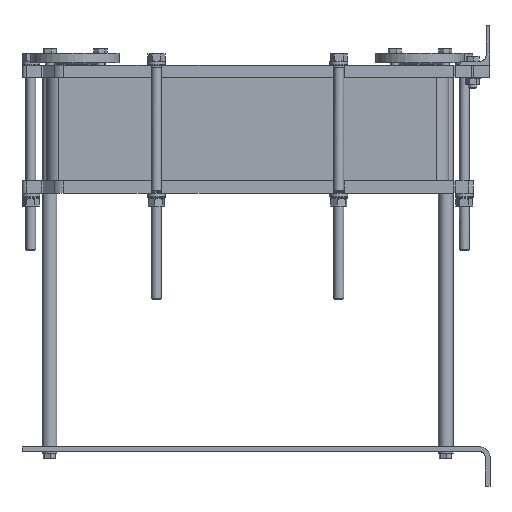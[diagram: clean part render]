
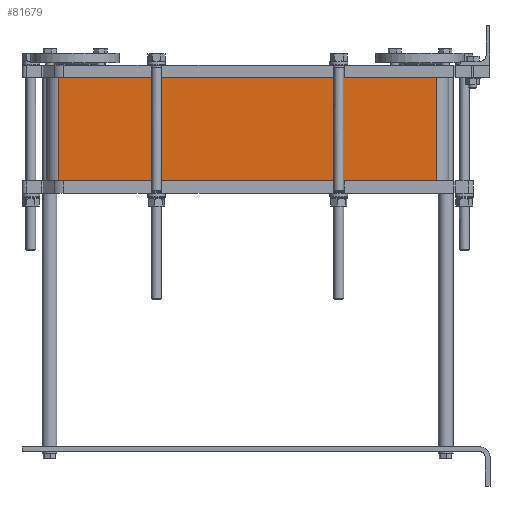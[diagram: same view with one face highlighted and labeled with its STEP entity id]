
A CAD part, left-side view. The second image highlights one B-rep face of the part: STEP entity #81679.
In plain terms, the highlighted planar face has unit normal (-1, 0, 0).
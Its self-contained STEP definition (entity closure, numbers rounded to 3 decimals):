
#4970 = EDGE_CURVE ( 'NONE', #42950, #35938, #78756, .T. ) ;
#6731 = DIRECTION ( 'NONE',  ( 0., -1., 0. ) ) ;
#8130 = CARTESIAN_POINT ( 'NONE',  ( 31.5, 109., -105. ) ) ;
#10930 = DIRECTION ( 'NONE',  ( -1., 0., 0. ) ) ;
#13821 = CARTESIAN_POINT ( 'NONE',  ( 31.5, 875., -105. ) ) ;
#15086 = CARTESIAN_POINT ( 'NONE',  ( 31.5, 875., -105. ) ) ;
#17578 = VECTOR ( 'NONE', #6731, 1000. ) ;
#19025 = VERTEX_POINT ( 'NONE', #52430 ) ;
#23132 = DIRECTION ( 'NONE',  ( 0., 0., -1. ) ) ;
#24021 = FACE_OUTER_BOUND ( 'NONE', #53223, .T. ) ;
#26394 = EDGE_CURVE ( 'NONE', #34557, #42950, #34937, .T. ) ;
#31471 = EDGE_CURVE ( 'NONE', #34557, #19025, #70283, .T. ) ;
#31494 = DIRECTION ( 'NONE',  ( 0., 0., -1. ) ) ;
#33574 = CARTESIAN_POINT ( 'NONE',  ( 31.5, 109., -105. ) ) ;
#34557 = VERTEX_POINT ( 'NONE', #66352 ) ;
#34937 = LINE ( 'NONE', #13821, #17578 ) ;
#35938 = VERTEX_POINT ( 'NONE', #85891 ) ;
#42950 = VERTEX_POINT ( 'NONE', #8130 ) ;
#49574 = ORIENTED_EDGE ( 'NONE', *, *, #26394, .F. ) ;
#50842 = VECTOR ( 'NONE', #31494, 1000. ) ;
#52430 = CARTESIAN_POINT ( 'NONE',  ( 31.5, 875., -315. ) ) ;
#53179 = CARTESIAN_POINT ( 'NONE',  ( 31.5, 109., -105. ) ) ;
#53223 = EDGE_LOOP ( 'NONE', ( #49574, #75772, #88232, #65243 ) ) ;
#55555 = DIRECTION ( 'NONE',  ( 0., 1., 0. ) ) ;
#64409 = VECTOR ( 'NONE', #23132, 1000. ) ;
#65243 = ORIENTED_EDGE ( 'NONE', *, *, #4970, .F. ) ;
#66352 = CARTESIAN_POINT ( 'NONE',  ( 31.5, 875., -105. ) ) ;
#68006 = LINE ( 'NONE', #81991, #83130 ) ;
#70283 = LINE ( 'NONE', #15086, #64409 ) ;
#74548 = EDGE_CURVE ( 'NONE', #35938, #19025, #68006, .T. ) ;
#75772 = ORIENTED_EDGE ( 'NONE', *, *, #31471, .T. ) ;
#78756 = LINE ( 'NONE', #53179, #50842 ) ;
#78924 = AXIS2_PLACEMENT_3D ( 'NONE', #33574, #10930, #55555 ) ;
#81679 = ADVANCED_FACE ( 'NONE', ( #24021 ), #85706, .T. ) ;
#81991 = CARTESIAN_POINT ( 'NONE',  ( 31.5, 875., -315. ) ) ;
#83130 = VECTOR ( 'NONE', #89437, 1000. ) ;
#85706 = PLANE ( 'NONE',  #78924 ) ;
#85891 = CARTESIAN_POINT ( 'NONE',  ( 31.5, 109., -315. ) ) ;
#88232 = ORIENTED_EDGE ( 'NONE', *, *, #74548, .F. ) ;
#89437 = DIRECTION ( 'NONE',  ( 0., 1., 0. ) ) ;
